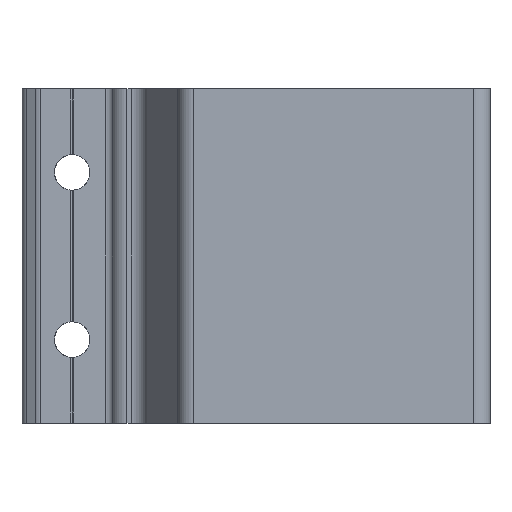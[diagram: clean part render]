
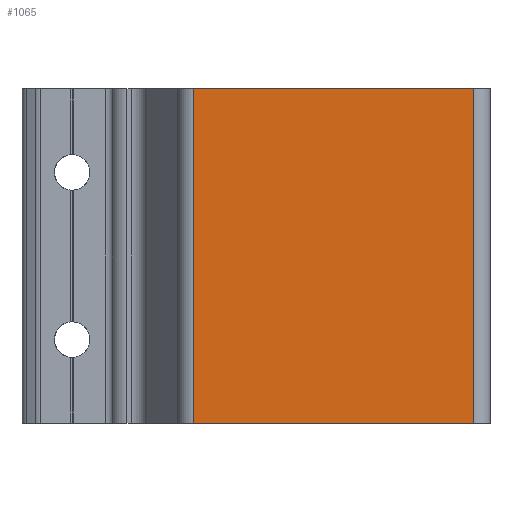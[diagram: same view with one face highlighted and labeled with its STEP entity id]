
A CAD part, left-side view. The second image highlights one B-rep face of the part: STEP entity #1065.
In plain terms, the highlighted planar face has unit normal (-1, 0, 0).
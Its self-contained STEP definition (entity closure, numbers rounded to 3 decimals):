
#37=PLANE('',#1180);
#79=FACE_OUTER_BOUND('',#132,.T.);
#132=EDGE_LOOP('',(#846,#847,#848,#849));
#228=LINE('',#1745,#329);
#229=LINE('',#1749,#330);
#230=LINE('',#1751,#331);
#231=LINE('',#1752,#332);
#329=VECTOR('',#1416,10.);
#330=VECTOR('',#1421,10.);
#331=VECTOR('',#1422,10.);
#332=VECTOR('',#1423,10.);
#491=VERTEX_POINT('',#1742);
#492=VERTEX_POINT('',#1744);
#493=VERTEX_POINT('',#1748);
#494=VERTEX_POINT('',#1750);
#629=EDGE_CURVE('',#492,#491,#228,.T.);
#631=EDGE_CURVE('',#491,#493,#229,.T.);
#632=EDGE_CURVE('',#494,#493,#230,.T.);
#633=EDGE_CURVE('',#492,#494,#231,.T.);
#846=ORIENTED_EDGE('',*,*,#631,.T.);
#847=ORIENTED_EDGE('',*,*,#632,.F.);
#848=ORIENTED_EDGE('',*,*,#633,.F.);
#849=ORIENTED_EDGE('',*,*,#629,.T.);
#1065=ADVANCED_FACE('',(#79),#37,.T.);
#1180=AXIS2_PLACEMENT_3D('',#1747,#1419,#1420);
#1416=DIRECTION('',(0.,0.,1.));
#1419=DIRECTION('center_axis',(-1.,0.,0.));
#1420=DIRECTION('ref_axis',(0.,0.,1.));
#1421=DIRECTION('',(0.,1.,0.));
#1422=DIRECTION('',(0.,0.,1.));
#1423=DIRECTION('',(0.,1.,0.));
#1742=CARTESIAN_POINT('',(-187.074,-214.607,80.));
#1744=CARTESIAN_POINT('',(-187.074,-214.607,0.));
#1745=CARTESIAN_POINT('',(-187.074,-214.607,0.));
#1747=CARTESIAN_POINT('Origin',(-187.074,-214.607,0.));
#1748=CARTESIAN_POINT('',(-187.074,-147.767,80.));
#1749=CARTESIAN_POINT('',(-187.074,-214.607,80.));
#1750=CARTESIAN_POINT('',(-187.074,-147.767,0.));
#1751=CARTESIAN_POINT('',(-187.074,-147.767,0.));
#1752=CARTESIAN_POINT('',(-187.074,-214.607,0.));
